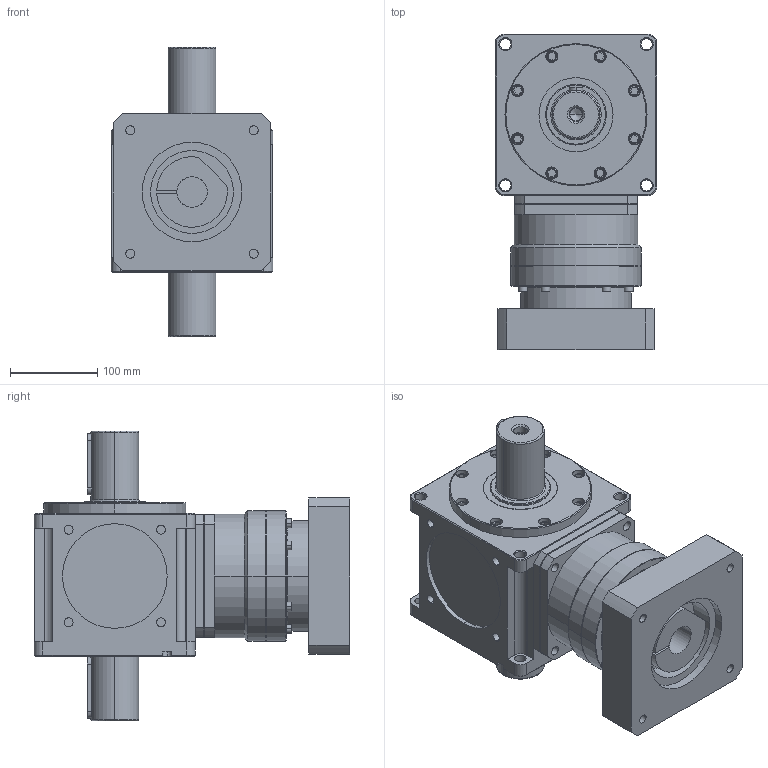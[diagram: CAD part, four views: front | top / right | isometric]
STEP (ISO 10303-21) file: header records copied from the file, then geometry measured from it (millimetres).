
FILE_DESCRIPTION (( 'STEP AP214' ), '1' );
FILE_NAME ('CCW185A-L1(6-20)-2P 35-114.3-200-M12.STEP', '2025-05-26T05:34:11', ( '微软用户' ), ( '微软中国' ), 'SwSTEP 2.0', 'SolidWorks 2024', '' );
FILE_SCHEMA (( 'AUTOMOTIVE_DESIGN' ));
Length unit declared in the file: millimetre
Products named in the file (3): CCW185A-L1(6-20)-2P 35-114.3-200-M12; VRB-142-L1-S2-P1 35-114.3-200-M12; CCW185A-002-2P箱体
Assembly tree (2 placements, depth 2):
  CCW185A-L1(6-20)-2P 35-114.3-200-M12
    VRB-142-L1-S2-P1 35-114.3-200-M12
    CCW185A-002-2P箱体
Bounding box: 185 x 362 x 332 mm (x, y, z)
Volume: 9332226.6 mm3; surface area: 476900.6 mm2
Topology: 2 solids, 2 shells, 562 faces, 1321 edges, 831 vertices
Faces by surface type: plane 269, cylinder 193, cone 64, torus 36
Entity records: 16514 total; most frequent: CARTESIAN_POINT 3070, DIRECTION 2980, ORIENTED_EDGE 2630, EDGE_CURVE 1315, AXIS2_PLACEMENT_3D 1131, VERTEX_POINT 831, LINE 718, VECTOR 718
